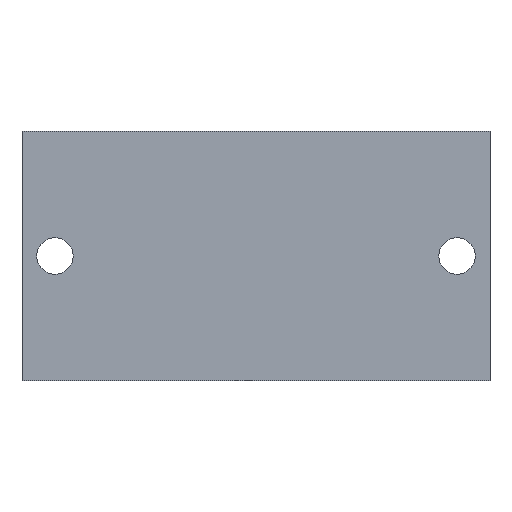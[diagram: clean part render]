
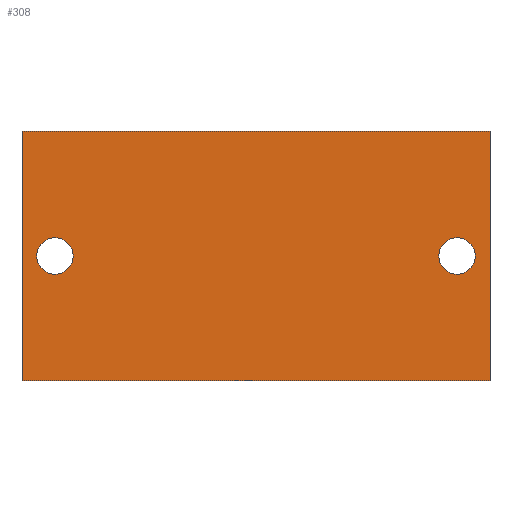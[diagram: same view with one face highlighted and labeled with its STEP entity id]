
A CAD part, front view. The second image highlights one B-rep face of the part: STEP entity #308.
In plain terms, the highlighted planar face has unit normal (0, -1, 0).
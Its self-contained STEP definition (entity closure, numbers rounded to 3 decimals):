
#14 = DIRECTION ( 'NONE',  ( 0., -1., 0. ) ) ;
#28 = EDGE_CURVE ( 'NONE', #569, #420, #45, .T. ) ;
#45 = CIRCLE ( 'NONE', #570, 5.25 ) ;
#46 = AXIS2_PLACEMENT_3D ( 'NONE', #590, #366, #547 ) ;
#49 = VECTOR ( 'NONE', #588, 1000. ) ;
#56 = CARTESIAN_POINT ( 'NONE',  ( 58., -50., 0. ) ) ;
#64 = FACE_OUTER_BOUND ( 'NONE', #391, .T. ) ;
#78 = CARTESIAN_POINT ( 'NONE',  ( -58., -50., 5.25 ) ) ;
#98 = CARTESIAN_POINT ( 'NONE',  ( -67.5, -50., 36. ) ) ;
#116 = ORIENTED_EDGE ( 'NONE', *, *, #492, .F. ) ;
#128 = CIRCLE ( 'NONE', #477, 5.25 ) ;
#133 = VERTEX_POINT ( 'NONE', #280 ) ;
#135 = VERTEX_POINT ( 'NONE', #334 ) ;
#152 = CARTESIAN_POINT ( 'NONE',  ( 58., -50., -5.25 ) ) ;
#172 = VECTOR ( 'NONE', #189, 1000. ) ;
#175 = DIRECTION ( 'NONE',  ( 1., 0., 0. ) ) ;
#189 = DIRECTION ( 'NONE',  ( 0., 0., -1. ) ) ;
#205 = DIRECTION ( 'NONE',  ( 0., 0., -1. ) ) ;
#217 = LINE ( 'NONE', #559, #580 ) ;
#223 = EDGE_CURVE ( 'NONE', #420, #569, #128, .T. ) ;
#227 = VERTEX_POINT ( 'NONE', #152 ) ;
#258 = PLANE ( 'NONE',  #46 ) ;
#265 = DIRECTION ( 'NONE',  ( 0., -1., 0. ) ) ;
#275 = CIRCLE ( 'NONE', #520, 5.25 ) ;
#278 = ORIENTED_EDGE ( 'NONE', *, *, #369, .F. ) ;
#280 = CARTESIAN_POINT ( 'NONE',  ( 67.5, -50., 36. ) ) ;
#286 = CARTESIAN_POINT ( 'NONE',  ( 58., -50., 0. ) ) ;
#293 = CIRCLE ( 'NONE', #425, 5.25 ) ;
#301 = CARTESIAN_POINT ( 'NONE',  ( 58., -50., 5.25 ) ) ;
#303 = ORIENTED_EDGE ( 'NONE', *, *, #223, .F. ) ;
#308 = ADVANCED_FACE ( 'NONE', ( #497, #311, #64 ), #258, .F. ) ;
#311 = FACE_BOUND ( 'NONE', #439, .T. ) ;
#317 = CARTESIAN_POINT ( 'NONE',  ( 67.5, -50., 36. ) ) ;
#332 = EDGE_CURVE ( 'NONE', #333, #135, #398, .T. ) ;
#333 = VERTEX_POINT ( 'NONE', #473 ) ;
#334 = CARTESIAN_POINT ( 'NONE',  ( -67.5, -50., -36. ) ) ;
#359 = LINE ( 'NONE', #317, #543 ) ;
#363 = DIRECTION ( 'NONE',  ( 0., 0., -1. ) ) ;
#366 = DIRECTION ( 'NONE',  ( 0., 1., 0. ) ) ;
#369 = EDGE_CURVE ( 'NONE', #514, #227, #293, .T. ) ;
#391 = EDGE_LOOP ( 'NONE', ( #511, #397, #472, #620 ) ) ;
#397 = ORIENTED_EDGE ( 'NONE', *, *, #471, .F. ) ;
#398 = LINE ( 'NONE', #98, #172 ) ;
#401 = CARTESIAN_POINT ( 'NONE',  ( -67.5, -50., 36. ) ) ;
#402 = DIRECTION ( 'NONE',  ( 0., 0., -1. ) ) ;
#420 = VERTEX_POINT ( 'NONE', #525 ) ;
#425 = AXIS2_PLACEMENT_3D ( 'NONE', #286, #579, #481 ) ;
#439 = EDGE_LOOP ( 'NONE', ( #116, #278 ) ) ;
#441 = DIRECTION ( 'NONE',  ( 0., 0., -1. ) ) ;
#450 = LINE ( 'NONE', #401, #49 ) ;
#455 = CARTESIAN_POINT ( 'NONE',  ( 67.5, -50., -36. ) ) ;
#456 = EDGE_LOOP ( 'NONE', ( #303, #475 ) ) ;
#471 = EDGE_CURVE ( 'NONE', #133, #521, #359, .T. ) ;
#472 = ORIENTED_EDGE ( 'NONE', *, *, #512, .F. ) ;
#473 = CARTESIAN_POINT ( 'NONE',  ( -67.5, -50., 36. ) ) ;
#475 = ORIENTED_EDGE ( 'NONE', *, *, #28, .F. ) ;
#477 = AXIS2_PLACEMENT_3D ( 'NONE', #503, #14, #363 ) ;
#481 = DIRECTION ( 'NONE',  ( 0., 0., -1. ) ) ;
#489 = DIRECTION ( 'NONE',  ( 0., -1., 0. ) ) ;
#492 = EDGE_CURVE ( 'NONE', #227, #514, #275, .T. ) ;
#497 = FACE_BOUND ( 'NONE', #456, .T. ) ;
#503 = CARTESIAN_POINT ( 'NONE',  ( -58., -50., 0. ) ) ;
#511 = ORIENTED_EDGE ( 'NONE', *, *, #604, .T. ) ;
#512 = EDGE_CURVE ( 'NONE', #333, #133, #450, .T. ) ;
#514 = VERTEX_POINT ( 'NONE', #301 ) ;
#520 = AXIS2_PLACEMENT_3D ( 'NONE', #56, #265, #441 ) ;
#521 = VERTEX_POINT ( 'NONE', #455 ) ;
#525 = CARTESIAN_POINT ( 'NONE',  ( -58., -50., -5.25 ) ) ;
#543 = VECTOR ( 'NONE', #205, 1000. ) ;
#544 = CARTESIAN_POINT ( 'NONE',  ( -58., -50., 0. ) ) ;
#547 = DIRECTION ( 'NONE',  ( 0., 0., 1. ) ) ;
#559 = CARTESIAN_POINT ( 'NONE',  ( -67.5, -50., -36. ) ) ;
#569 = VERTEX_POINT ( 'NONE', #78 ) ;
#570 = AXIS2_PLACEMENT_3D ( 'NONE', #544, #489, #402 ) ;
#579 = DIRECTION ( 'NONE',  ( 0., -1., 0. ) ) ;
#580 = VECTOR ( 'NONE', #175, 1000. ) ;
#588 = DIRECTION ( 'NONE',  ( 1., 0., 0. ) ) ;
#590 = CARTESIAN_POINT ( 'NONE',  ( -67.5, -50., 36. ) ) ;
#604 = EDGE_CURVE ( 'NONE', #135, #521, #217, .T. ) ;
#620 = ORIENTED_EDGE ( 'NONE', *, *, #332, .T. ) ;
